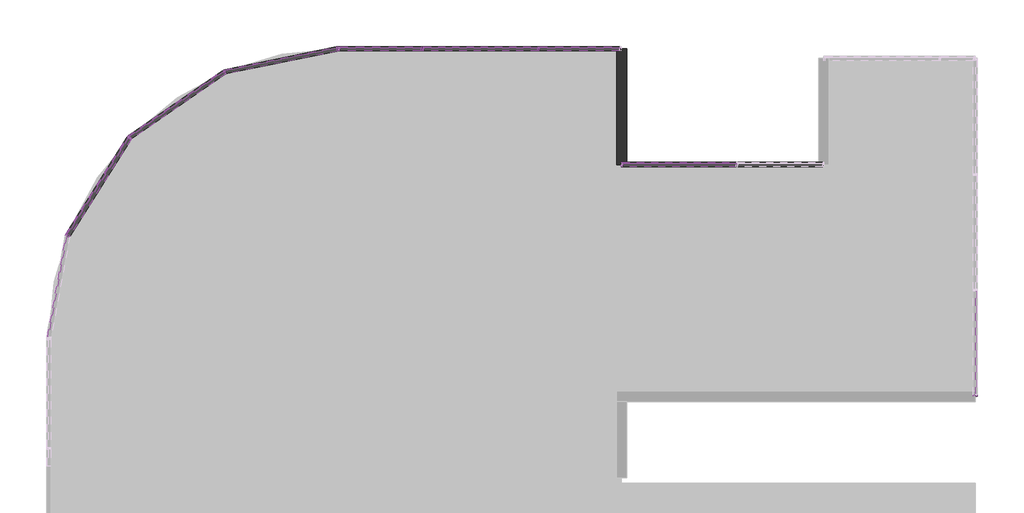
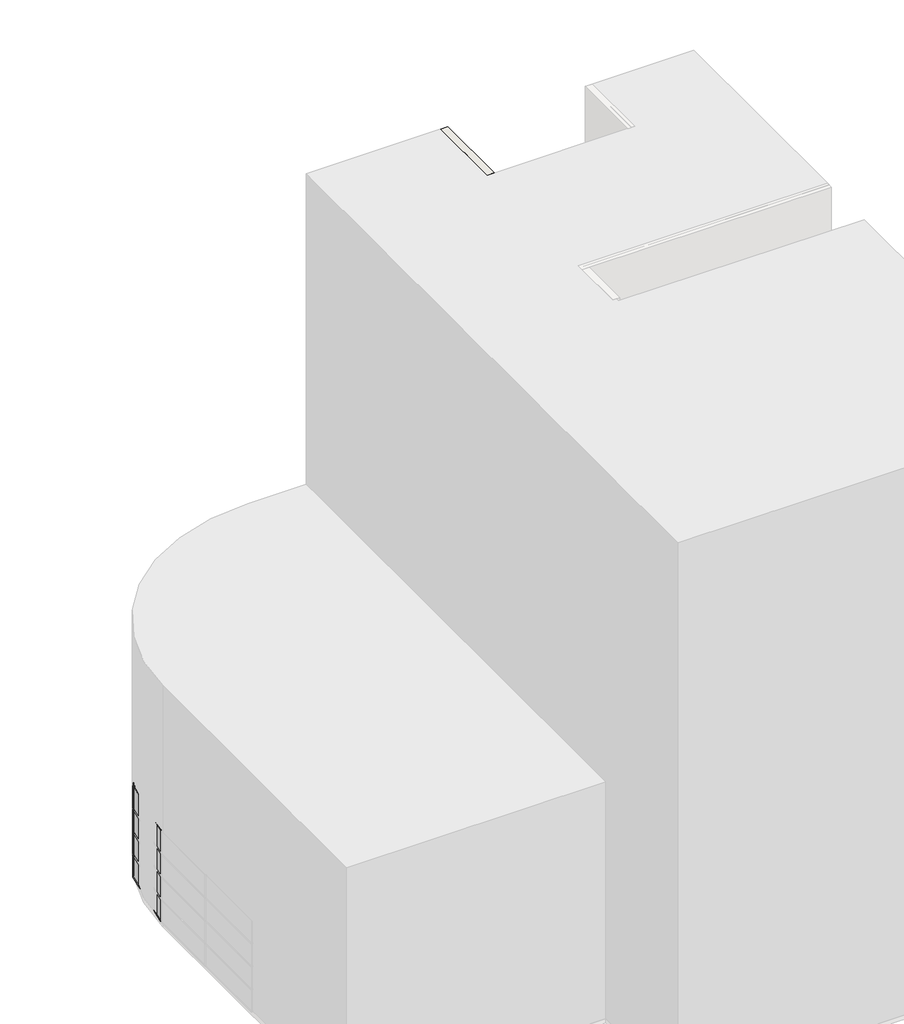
# One storey, part 3 of 4: 68 members, 36 plates, 1 wall.
"""IFC4 building model written with IfcOpenShell, lengths in millimetres."""

from ifc_helpers import new_model, si_unit, origin, origin_with_axes, place, context, project, spatial, polyline, outline, extrude, transform, mapped, element, save
from components import rectangular_mullion_50_x_150mm_d99dc9be, rectangular_mullion_50_x_150mm_402ab136, rectangular_mullion_50_x_150mm_6588f46c, rectangular_mullion_50_x_150mm_c2546fd4, rectangular_mullion_50_x_150mm_55b3505a, rectangular_mullion_50_x_150mm_8b4cb4b7, rectangular_mullion_50_x_150mm_185cfd49, rectangular_mullion_50_x_150mm_0b116d56, rectangular_mullion_50_x_150mm_6d604593, rectangular_mullion_50_x_150mm_99029072, rectangular_mullion_50_x_150mm_662445cf, rectangular_mullion_50_x_150mm_3491e2ff, rectangular_mullion_50_x_150mm_1010543a, rectangular_mullion_50_x_150mm_6b01f5a5, system_panel_glazed_ecbc047f, system_panel_glazed_459c9171, system_panel_glazed_8e9402eb, system_panel_glazed_5566c609, system_panel_glazed_6cd03a5f, system_panel_glazed_e890f31e, system_panel_glazed_ee025bb3, system_panel_glazed_18d93cd4, system_panel_glazed_0282c8a9, system_panel_glazed_e778729e, system_panel_glazed_01970cee, system_panel_glazed_f47374c1, system_panel_glazed_c3dc520e, system_panel_glazed_01c601c5

model = new_model("IFC4")

# Units and contexts
model_context = context("Model", 3, world=origin())
ifc_project = project(units=[si_unit("LENGTHUNIT", "METRE", prefix="MILLI")], contexts=[model_context])

# Site, building, storey
site = spatial("IfcSite", under=ifc_project)
building = spatial("IfcBuilding", under=site)
storey = spatial("IfcBuildingStorey", under=building, Name="Suteren", Elevation=0.0)

# Members
placement = place(None, origin())
rectangular_mullion_50_x_150mm_shape = rectangular_mullion_50_x_150mm_d99dc9be(model_context)
element("IfcMember", 1, ObjectType="Rectangular Mullion : 50 x 150mm", at=placement, inside=storey, context=model_context, shape_type="MappedRepresentation", body=[
    mapped(rectangular_mullion_50_x_150mm_shape, transform((-1587.173406, 8375.9839566, 2400.0), x_axis=(1.0, 0.0, 0.0), y_axis=(0.0, 1.0, 0.0), z_axis=(0.0, 0.0, 1.0))),
])
element("IfcMember", 2, ObjectType="Rectangular Mullion : 50 x 150mm", at=placement, inside=storey, context=model_context, shape_type="MappedRepresentation", body=[
    mapped(rectangular_mullion_50_x_150mm_shape, transform((-1587.173406, 8375.9839566, 3600.0), x_axis=(1.0, 0.0, 0.0), y_axis=(0.0, 1.0, 0.0), z_axis=(0.0, 0.0, 1.0))),
])
element("IfcMember", 3, ObjectType="Rectangular Mullion : 50 x 150mm", at=placement, inside=storey, context=model_context, shape_type="MappedRepresentation", body=[
    mapped(rectangular_mullion_50_x_150mm_shape, transform((-1587.173406, 8375.9839566, 4800.0), x_axis=(1.0, 0.0, 0.0), y_axis=(0.0, 1.0, 0.0), z_axis=(0.0, 0.0, 1.0))),
])
element("IfcMember", 4, ObjectType="Rectangular Mullion : 50 x 150mm", at=placement, inside=storey, context=model_context, shape_type="MappedRepresentation", body=[
    mapped(rectangular_mullion_50_x_150mm_shape, transform((-1587.173406, 8375.9839566, 1200.0), x_axis=(1.0, 0.0, 0.0), y_axis=(0.0, 1.0, 0.0), z_axis=(0.0, 0.0, 1.0))),
])
rectangular_mullion_50_x_150mm_2_shape = rectangular_mullion_50_x_150mm_402ab136(model_context)
element("IfcMember", 5, ObjectType="Rectangular Mullion : 50 x 150mm", at=placement, inside=storey, context=model_context, shape_type="MappedRepresentation", body=[
    mapped(rectangular_mullion_50_x_150mm_2_shape, transform((-1612.173406, 8375.9839566, 0.0), x_axis=(0.0, 0.0, -1.0), y_axis=(0.0, 1.0, 0.0), z_axis=(1.0, 0.0, 0.0))),
])
rectangular_mullion_50_x_150mm_3_shape = rectangular_mullion_50_x_150mm_6588f46c(model_context)
element("IfcMember", 6, ObjectType="Rectangular Mullion : 50 x 150mm", at=placement, inside=storey, context=model_context, shape_type="MappedRepresentation", body=[
    mapped(rectangular_mullion_50_x_150mm_3_shape, transform((13503.2660975, -3624.0160434, 3600.0), x_axis=(0.0, -1.0, 0.0), y_axis=(1.0, 0.0, 0.0), z_axis=(0.0, 0.0, 1.0))),
])
element("IfcMember", 7, ObjectType="Rectangular Mullion : 50 x 150mm", at=placement, inside=storey, context=model_context, shape_type="MappedRepresentation", body=[
    mapped(rectangular_mullion_50_x_150mm_3_shape, transform((13503.2660975, -3624.0160434, 2400.0), x_axis=(0.0, -1.0, 0.0), y_axis=(1.0, 0.0, 0.0), z_axis=(0.0, 0.0, 1.0))),
])
element("IfcMember", 8, ObjectType="Rectangular Mullion : 50 x 150mm", at=placement, inside=storey, context=model_context, shape_type="MappedRepresentation", body=[
    mapped(rectangular_mullion_50_x_150mm_3_shape, transform((-5587.173406, 8375.9839566, 2400.0), x_axis=(1.0, 0.0, 0.0), y_axis=(0.0, 1.0, 0.0), z_axis=(0.0, 0.0, 1.0))),
])
element("IfcMember", 9, ObjectType="Rectangular Mullion : 50 x 150mm", at=placement, inside=storey, context=model_context, shape_type="MappedRepresentation", body=[
    mapped(rectangular_mullion_50_x_150mm_3_shape, transform((-5587.173406, 8375.9839566, 3600.0), x_axis=(1.0, 0.0, 0.0), y_axis=(0.0, 1.0, 0.0), z_axis=(0.0, 0.0, 1.0))),
])
element("IfcMember", 10, ObjectType="Rectangular Mullion : 50 x 150mm", at=placement, inside=storey, context=model_context, shape_type="MappedRepresentation", body=[
    mapped(rectangular_mullion_50_x_150mm_3_shape, transform((-5587.173406, 8375.9839566, 4800.0), x_axis=(1.0, 0.0, 0.0), y_axis=(0.0, 1.0, 0.0), z_axis=(0.0, 0.0, 1.0))),
])
element("IfcMember", 11, ObjectType="Rectangular Mullion : 50 x 150mm", at=placement, inside=storey, context=model_context, shape_type="MappedRepresentation", body=[
    mapped(rectangular_mullion_50_x_150mm_3_shape, transform((-8496.7339025, 8375.9839566, 2400.0), x_axis=(0.9797958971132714, 0.1999999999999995, 0.0), y_axis=(-0.1999999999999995, 0.9797958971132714, 0.0), z_axis=(0.0, 0.0, 1.0))),
])
element("IfcMember", 12, ObjectType="Rectangular Mullion : 50 x 150mm", at=placement, inside=storey, context=model_context, shape_type="MappedRepresentation", body=[
    mapped(rectangular_mullion_50_x_150mm_3_shape, transform((-8496.7339025, 8375.9839566, 3600.0), x_axis=(0.9797958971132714, 0.1999999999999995, 0.0), y_axis=(-0.1999999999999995, 0.9797958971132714, 0.0), z_axis=(0.0, 0.0, 1.0))),
])
element("IfcMember", 13, ObjectType="Rectangular Mullion : 50 x 150mm", at=placement, inside=storey, context=model_context, shape_type="MappedRepresentation", body=[
    mapped(rectangular_mullion_50_x_150mm_3_shape, transform((-8496.7339025, 8375.9839566, 4800.0), x_axis=(0.9797958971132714, 0.1999999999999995, 0.0), y_axis=(-0.1999999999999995, 0.9797958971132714, 0.0), z_axis=(0.0, 0.0, 1.0))),
])
element("IfcMember", 14, ObjectType="Rectangular Mullion : 50 x 150mm", at=placement, inside=storey, context=model_context, shape_type="MappedRepresentation", body=[
    mapped(rectangular_mullion_50_x_150mm_3_shape, transform((13503.2660975, -3624.0160434, 1200.0), x_axis=(0.0, -1.0, 0.0), y_axis=(1.0, 0.0, 0.0), z_axis=(0.0, 0.0, 1.0))),
])
element("IfcMember", 15, ObjectType="Rectangular Mullion : 50 x 150mm", at=placement, inside=storey, context=model_context, shape_type="MappedRepresentation", body=[
    mapped(rectangular_mullion_50_x_150mm_3_shape, transform((-5587.173406, 8375.9839566, 1200.0), x_axis=(1.0, 0.0, 0.0), y_axis=(0.0, 1.0, 0.0), z_axis=(0.0, 0.0, 1.0))),
])
element("IfcMember", 16, ObjectType="Rectangular Mullion : 50 x 150mm", at=placement, inside=storey, context=model_context, shape_type="MappedRepresentation", body=[
    mapped(rectangular_mullion_50_x_150mm_3_shape, transform((-8496.7339025, 8375.9839566, 1200.0), x_axis=(0.9797958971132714, 0.1999999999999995, 0.0), y_axis=(-0.1999999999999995, 0.9797958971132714, 0.0), z_axis=(0.0, 0.0, 1.0))),
])
rectangular_mullion_50_x_150mm_4_shape = rectangular_mullion_50_x_150mm_c2546fd4(model_context)
element("IfcMember", 17, ObjectType="Rectangular Mullion : 50 x 150mm", at=placement, inside=storey, context=model_context, shape_type="MappedRepresentation", body=[
    mapped(rectangular_mullion_50_x_150mm_4_shape, transform((-5537.173406, 8375.9839566, 1200.0), x_axis=(0.0, 0.0, 1.0), y_axis=(0.0, 1.0, 0.0), z_axis=(-1.0, 0.0, 0.0))),
])
element("IfcMember", 18, ObjectType="Rectangular Mullion : 50 x 150mm", at=placement, inside=storey, context=model_context, shape_type="MappedRepresentation", body=[
    mapped(rectangular_mullion_50_x_150mm_4_shape, transform((-5537.173406, 8375.9839566, 2400.0), x_axis=(0.0, 0.0, 1.0), y_axis=(0.0, 1.0, 0.0), z_axis=(-1.0, 0.0, 0.0))),
])
element("IfcMember", 19, ObjectType="Rectangular Mullion : 50 x 150mm", at=placement, inside=storey, context=model_context, shape_type="MappedRepresentation", body=[
    mapped(rectangular_mullion_50_x_150mm_4_shape, transform((-5537.173406, 8375.9839566, 3600.0), x_axis=(0.0, 0.0, 1.0), y_axis=(0.0, 1.0, 0.0), z_axis=(-1.0, 0.0, 0.0))),
])
element("IfcMember", 20, ObjectType="Rectangular Mullion : 50 x 150mm", at=placement, inside=storey, context=model_context, shape_type="MappedRepresentation", body=[
    mapped(rectangular_mullion_50_x_150mm_4_shape, transform((1328.419219, 4375.9839566, 1200.0), x_axis=(0.0, 0.0, 1.0), y_axis=(0.0, 1.0, 0.0), z_axis=(-1.0, 0.0, 0.0))),
])
element("IfcMember", 21, ObjectType="Rectangular Mullion : 50 x 150mm", at=placement, inside=storey, context=model_context, shape_type="MappedRepresentation", body=[
    mapped(rectangular_mullion_50_x_150mm_4_shape, transform((1328.419219, 4375.9839566, 2400.0), x_axis=(0.0, 0.0, 1.0), y_axis=(0.0, 1.0, 0.0), z_axis=(-1.0, 0.0, 0.0))),
])
element("IfcMember", 22, ObjectType="Rectangular Mullion : 50 x 150mm", at=placement, inside=storey, context=model_context, shape_type="MappedRepresentation", body=[
    mapped(rectangular_mullion_50_x_150mm_4_shape, transform((1328.419219, 4375.9839566, 3600.0), x_axis=(0.0, 0.0, 1.0), y_axis=(0.0, 1.0, 0.0), z_axis=(-1.0, 0.0, 0.0))),
])
rectangular_mullion_50_x_150mm_5_shape = rectangular_mullion_50_x_150mm_55b3505a(model_context)
element("IfcMember", 23, ObjectType="Rectangular Mullion : 50 x 150mm", at=placement, inside=storey, context=model_context, shape_type="MappedRepresentation", body=[
    mapped(rectangular_mullion_50_x_150mm_5_shape, transform((13503.2660975, -3574.0160434, 0.0), x_axis=(0.0, 0.0, -1.0), y_axis=(1.0, 0.0, 0.0), z_axis=(0.0, -1.0, 0.0))),
])
element("IfcMember", 24, ObjectType="Rectangular Mullion : 50 x 150mm", at=placement, inside=storey, context=model_context, shape_type="MappedRepresentation", body=[
    mapped(rectangular_mullion_50_x_150mm_3_shape, transform((-5587.173406, 8375.9839566, 1200.0), x_axis=(-1.0, 0.0, 0.0), y_axis=(0.0, 1.0, 0.0), z_axis=(0.0, 0.0, -1.0))),
])
element("IfcMember", 25, ObjectType="Rectangular Mullion : 50 x 150mm", at=placement, inside=storey, context=model_context, shape_type="MappedRepresentation", body=[
    mapped(rectangular_mullion_50_x_150mm_3_shape, transform((-5587.173406, 8375.9839566, 2400.0), x_axis=(-1.0, 0.0, 0.0), y_axis=(0.0, 1.0, 0.0), z_axis=(0.0, 0.0, -1.0))),
])
element("IfcMember", 26, ObjectType="Rectangular Mullion : 50 x 150mm", at=placement, inside=storey, context=model_context, shape_type="MappedRepresentation", body=[
    mapped(rectangular_mullion_50_x_150mm_3_shape, transform((-5587.173406, 8375.9839566, 3600.0), x_axis=(-1.0, 0.0, 0.0), y_axis=(0.0, 1.0, 0.0), z_axis=(0.0, 0.0, -1.0))),
])
element("IfcMember", 27, ObjectType="Rectangular Mullion : 50 x 150mm", at=placement, inside=storey, context=model_context, shape_type="MappedRepresentation", body=[
    mapped(rectangular_mullion_50_x_150mm_3_shape, transform((1278.419219, 4375.9839566, 1200.0), x_axis=(-1.0, 0.0, 0.0), y_axis=(0.0, 1.0, 0.0), z_axis=(0.0, 0.0, -1.0))),
])
element("IfcMember", 28, ObjectType="Rectangular Mullion : 50 x 150mm", at=placement, inside=storey, context=model_context, shape_type="MappedRepresentation", body=[
    mapped(rectangular_mullion_50_x_150mm_3_shape, transform((1278.419219, 4375.9839566, 2400.0), x_axis=(-1.0, 0.0, 0.0), y_axis=(0.0, 1.0, 0.0), z_axis=(0.0, 0.0, -1.0))),
])
element("IfcMember", 29, ObjectType="Rectangular Mullion : 50 x 150mm", at=placement, inside=storey, context=model_context, shape_type="MappedRepresentation", body=[
    mapped(rectangular_mullion_50_x_150mm_3_shape, transform((1278.419219, 4375.9839566, 3600.0), x_axis=(-1.0, 0.0, 0.0), y_axis=(0.0, 1.0, 0.0), z_axis=(0.0, 0.0, -1.0))),
])
element("IfcMember", 30, ObjectType="Rectangular Mullion : 50 x 150mm", at=placement, inside=storey, context=model_context, shape_type="MappedRepresentation", body=[
    mapped(rectangular_mullion_50_x_150mm_3_shape, transform((-8496.7339025, 8375.9839566, 1200.0), x_axis=(-1.0, 0.0, 0.0), y_axis=(0.0, 1.0, 0.0), z_axis=(0.0, 0.0, -1.0))),
])
element("IfcMember", 31, ObjectType="Rectangular Mullion : 50 x 150mm", at=placement, inside=storey, context=model_context, shape_type="MappedRepresentation", body=[
    mapped(rectangular_mullion_50_x_150mm_3_shape, transform((-8496.7339025, 8375.9839566, 2400.0), x_axis=(-1.0, 0.0, 0.0), y_axis=(0.0, 1.0, 0.0), z_axis=(0.0, 0.0, -1.0))),
])
element("IfcMember", 32, ObjectType="Rectangular Mullion : 50 x 150mm", at=placement, inside=storey, context=model_context, shape_type="MappedRepresentation", body=[
    mapped(rectangular_mullion_50_x_150mm_3_shape, transform((-8496.7339025, 8375.9839566, 3600.0), x_axis=(-1.0, 0.0, 0.0), y_axis=(0.0, 1.0, 0.0), z_axis=(0.0, 0.0, -1.0))),
])
element("IfcMember", 33, ObjectType="Rectangular Mullion : 50 x 150mm", at=placement, inside=storey, context=model_context, shape_type="MappedRepresentation", body=[
    mapped(rectangular_mullion_50_x_150mm_3_shape, transform((-5587.173406, 8375.9839566, 0.0), x_axis=(-1.0, 0.0, 0.0), y_axis=(0.0, 1.0, 0.0), z_axis=(0.0, 0.0, -1.0))),
])
element("IfcMember", 34, ObjectType="Rectangular Mullion : 50 x 150mm", at=placement, inside=storey, context=model_context, shape_type="MappedRepresentation", body=[
    mapped(rectangular_mullion_50_x_150mm_3_shape, transform((1278.419219, 4375.9839566, 0.0), x_axis=(-1.0, 0.0, 0.0), y_axis=(0.0, 1.0, 0.0), z_axis=(0.0, 0.0, -1.0))),
])
element("IfcMember", 35, ObjectType="Rectangular Mullion : 50 x 150mm", at=placement, inside=storey, context=model_context, shape_type="MappedRepresentation", body=[
    mapped(rectangular_mullion_50_x_150mm_3_shape, transform((-8496.7339025, 8375.9839566, 0.0), x_axis=(-1.0, 0.0, 0.0), y_axis=(0.0, 1.0, 0.0), z_axis=(0.0, 0.0, -1.0))),
])
rectangular_mullion_50_x_150mm_6_shape = rectangular_mullion_50_x_150mm_8b4cb4b7(model_context)
element("IfcMember", 36, ObjectType="Rectangular Mullion : 50 x 150mm", at=placement, inside=storey, context=model_context, shape_type="MappedRepresentation", body=[
    mapped(rectangular_mullion_50_x_150mm_6_shape, transform((-1562.173406, 8375.9839566, 1200.0), x_axis=(0.0, 0.0, 1.0), y_axis=(0.0, 1.0, 0.0), z_axis=(-1.0, 0.0, 0.0))),
])
element("IfcMember", 37, ObjectType="Rectangular Mullion : 50 x 150mm", at=placement, inside=storey, context=model_context, shape_type="MappedRepresentation", body=[
    mapped(rectangular_mullion_50_x_150mm_6_shape, transform((-1562.173406, 8375.9839566, 2400.0), x_axis=(0.0, 0.0, 1.0), y_axis=(0.0, 1.0, 0.0), z_axis=(-1.0, 0.0, 0.0))),
])
element("IfcMember", 38, ObjectType="Rectangular Mullion : 50 x 150mm", at=placement, inside=storey, context=model_context, shape_type="MappedRepresentation", body=[
    mapped(rectangular_mullion_50_x_150mm_6_shape, transform((-1562.173406, 8375.9839566, 3600.0), x_axis=(0.0, 0.0, 1.0), y_axis=(0.0, 1.0, 0.0), z_axis=(-1.0, 0.0, 0.0))),
])
rectangular_mullion_50_x_150mm_7_shape = rectangular_mullion_50_x_150mm_185cfd49(model_context)
element("IfcMember", 39, ObjectType="Rectangular Mullion : 50 x 150mm", at=placement, inside=storey, context=model_context, shape_type="MappedRepresentation", body=[
    mapped(rectangular_mullion_50_x_150mm_7_shape, transform((5303.419219, 4375.9839566, 1200.0), x_axis=(0.0, 0.0, 1.0), y_axis=(0.0, 1.0, 0.0), z_axis=(-1.0, 0.0, 0.0))),
])
rectangular_mullion_50_x_150mm_8_shape = rectangular_mullion_50_x_150mm_0b116d56(model_context)
element("IfcMember", 40, ObjectType="Rectangular Mullion : 50 x 150mm", at=placement, inside=storey, context=model_context, shape_type="MappedRepresentation", body=[
    mapped(rectangular_mullion_50_x_150mm_8_shape, transform((-5637.173406, 8375.9839566, 0.0), x_axis=(0.0, 0.0, -1.0), y_axis=(0.0, 1.0, 0.0), z_axis=(1.0, 0.0, 0.0))),
])
rectangular_mullion_50_x_150mm_9_shape = rectangular_mullion_50_x_150mm_6d604593(model_context)
element("IfcMember", 41, ObjectType="Rectangular Mullion : 50 x 150mm", at=placement, inside=storey, context=model_context, shape_type="MappedRepresentation", body=[
    mapped(rectangular_mullion_50_x_150mm_9_shape, transform((-8446.7339025, 8375.9839566, 1200.0), x_axis=(0.0, 0.0, 1.0), y_axis=(0.0, 1.0, 0.0), z_axis=(-1.0, 0.0, 0.0))),
])
element("IfcMember", 42, ObjectType="Rectangular Mullion : 50 x 150mm", at=placement, inside=storey, context=model_context, shape_type="MappedRepresentation", body=[
    mapped(rectangular_mullion_50_x_150mm_9_shape, transform((-8446.7339025, 8375.9839566, 2400.0), x_axis=(0.0, 0.0, 1.0), y_axis=(0.0, 1.0, 0.0), z_axis=(-1.0, 0.0, 0.0))),
])
element("IfcMember", 43, ObjectType="Rectangular Mullion : 50 x 150mm", at=placement, inside=storey, context=model_context, shape_type="MappedRepresentation", body=[
    mapped(rectangular_mullion_50_x_150mm_9_shape, transform((-8446.7339025, 8375.9839566, 3600.0), x_axis=(0.0, 0.0, 1.0), y_axis=(0.0, 1.0, 0.0), z_axis=(-1.0, 0.0, 0.0))),
])
rectangular_mullion_50_x_150mm_10_shape = rectangular_mullion_50_x_150mm_99029072(model_context)
element("IfcMember", 44, ObjectType="Rectangular Mullion : 50 x 150mm", at=placement, inside=storey, context=model_context, shape_type="MappedRepresentation", body=[
    mapped(rectangular_mullion_50_x_150mm_10_shape, transform((-15687.4559914, 5318.1839566, 1200.0), x_axis=(0.0, 0.0, 1.0), y_axis=(-0.5680000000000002, 0.8230285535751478, 0.0), z_axis=(-0.8230285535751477, -0.5680000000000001, 0.0))),
])
element("IfcMember", 45, ObjectType="Rectangular Mullion : 50 x 150mm", at=placement, inside=storey, context=model_context, shape_type="MappedRepresentation", body=[
    mapped(rectangular_mullion_50_x_150mm_10_shape, transform((-17832.9738551, 1944.6319566, 1200.0), x_axis=(0.0, 0.0, 1.0), y_axis=(-0.84512, 0.534576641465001, 0.0), z_axis=(-0.534576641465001, -0.84512, 0.0))),
])
element("IfcMember", 46, ObjectType="Rectangular Mullion : 50 x 150mm", at=placement, inside=storey, context=model_context, shape_type="MappedRepresentation", body=[
    mapped(rectangular_mullion_50_x_150mm_10_shape, transform((-15687.4559914, 5318.1839566, 2400.0), x_axis=(0.0, 0.0, 1.0), y_axis=(-0.5680000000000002, 0.8230285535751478, 0.0), z_axis=(-0.8230285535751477, -0.5680000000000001, 0.0))),
])
element("IfcMember", 47, ObjectType="Rectangular Mullion : 50 x 150mm", at=placement, inside=storey, context=model_context, shape_type="MappedRepresentation", body=[
    mapped(rectangular_mullion_50_x_150mm_10_shape, transform((-17832.9738551, 1944.6319566, 2400.0), x_axis=(0.0, 0.0, 1.0), y_axis=(-0.84512, 0.534576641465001, 0.0), z_axis=(-0.534576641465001, -0.84512, 0.0))),
])
element("IfcMember", 48, ObjectType="Rectangular Mullion : 50 x 150mm", at=placement, inside=storey, context=model_context, shape_type="MappedRepresentation", body=[
    mapped(rectangular_mullion_50_x_150mm_10_shape, transform((-15687.4559914, 5318.1839566, 3600.0), x_axis=(0.0, 0.0, 1.0), y_axis=(-0.5680000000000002, 0.8230285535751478, 0.0), z_axis=(-0.8230285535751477, -0.5680000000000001, 0.0))),
])
element("IfcMember", 49, ObjectType="Rectangular Mullion : 50 x 150mm", at=placement, inside=storey, context=model_context, shape_type="MappedRepresentation", body=[
    mapped(rectangular_mullion_50_x_150mm_10_shape, transform((-17832.9738551, 1944.6319566, 3600.0), x_axis=(0.0, 0.0, 1.0), y_axis=(-0.84512, 0.534576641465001, 0.0), z_axis=(-0.534576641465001, -0.84512, 0.0))),
])
rectangular_mullion_50_x_150mm_11_shape = rectangular_mullion_50_x_150mm_662445cf(model_context)
element("IfcMember", 50, ObjectType="Rectangular Mullion : 50 x 150mm", at=placement, inside=storey, context=model_context, shape_type="MappedRepresentation", body=[
    mapped(rectangular_mullion_50_x_150mm_11_shape, transform((-12391.4225935, 7580.9839566, 2400.0), x_axis=(0.0, 0.0, 1.0), y_axis=(-0.19999999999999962, 0.9797958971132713, 0.0), z_axis=(-0.9797958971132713, -0.19999999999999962, 0.0))),
])
element("IfcMember", 51, ObjectType="Rectangular Mullion : 50 x 150mm", at=placement, inside=storey, context=model_context, shape_type="MappedRepresentation", body=[
    mapped(rectangular_mullion_50_x_150mm_11_shape, transform((-12391.4225935, 7580.9839566, 3600.0), x_axis=(0.0, 0.0, 1.0), y_axis=(-0.19999999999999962, 0.9797958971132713, 0.0), z_axis=(-0.9797958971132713, -0.19999999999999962, 0.0))),
])
element("IfcMember", 52, ObjectType="Rectangular Mullion : 50 x 150mm", at=placement, inside=storey, context=model_context, shape_type="MappedRepresentation", body=[
    mapped(rectangular_mullion_50_x_150mm_11_shape, transform((-12391.4225935, 7580.9839566, 1200.0), x_axis=(0.0, 0.0, 1.0), y_axis=(-0.19999999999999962, 0.9797958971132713, 0.0), z_axis=(-0.9797958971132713, -0.19999999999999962, 0.0))),
])
rectangular_mullion_50_x_150mm_12_shape = rectangular_mullion_50_x_150mm_3491e2ff(model_context)
element("IfcMember", 53, ObjectType="Rectangular Mullion : 50 x 150mm", at=placement, inside=storey, context=model_context, shape_type="MappedRepresentation", body=[
    mapped(rectangular_mullion_50_x_150mm_12_shape, transform((-12436.4932048, 7561.7839566, 0.0), x_axis=(0.0, 0.0, -1.0), y_axis=(-0.5680000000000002, 0.8230285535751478, 0.0), z_axis=(0.8230285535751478, 0.5680000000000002, 0.0))),
])
element("IfcMember", 54, ObjectType="Rectangular Mullion : 50 x 150mm", at=placement, inside=storey, context=model_context, shape_type="MappedRepresentation", body=[
    mapped(rectangular_mullion_50_x_150mm_12_shape, transform((-15721.3961213, 5282.8559566, 0.0), x_axis=(0.0, 0.0, -1.0), y_axis=(-0.8451199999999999, 0.5345766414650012, 0.0), z_axis=(0.5345766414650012, 0.8451199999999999, 0.0))),
])
rectangular_mullion_50_x_150mm_13_shape = rectangular_mullion_50_x_150mm_1010543a(model_context)
element("IfcMember", 55, ObjectType="Rectangular Mullion : 50 x 150mm", at=placement, inside=storey, context=model_context, shape_type="MappedRepresentation", body=[
    mapped(rectangular_mullion_50_x_150mm_13_shape, transform((-17850.8465816, 1898.9138135, 0.0), x_axis=(0.0, 0.0, -1.0), y_axis=(-0.9836057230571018, 0.18033241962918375, 0.0), z_axis=(0.18033241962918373, 0.9836057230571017, 0.0))),
])
element("IfcMember", 56, ObjectType="Rectangular Mullion : 50 x 150mm", at=placement, inside=storey, context=model_context, shape_type="MappedRepresentation", body=[
    mapped(rectangular_mullion_50_x_150mm_shape, transform((-12415.9174909, 7575.9839566, 1200.0), x_axis=(-0.92, -0.3919183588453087, 0.0), y_axis=(-0.3919183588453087, 0.92, 0.0), z_axis=(0.0, 0.0, -1.0))),
])
element("IfcMember", 57, ObjectType="Rectangular Mullion : 50 x 150mm", at=placement, inside=storey, context=model_context, shape_type="MappedRepresentation", body=[
    mapped(rectangular_mullion_50_x_150mm_shape, transform((-12415.9174909, 7575.9839566, 2400.0), x_axis=(-0.92, -0.3919183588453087, 0.0), y_axis=(-0.3919183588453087, 0.92, 0.0), z_axis=(0.0, 0.0, -1.0))),
])
element("IfcMember", 58, ObjectType="Rectangular Mullion : 50 x 150mm", at=placement, inside=storey, context=model_context, shape_type="MappedRepresentation", body=[
    mapped(rectangular_mullion_50_x_150mm_shape, transform((-12415.9174909, 7575.9839566, 3600.0), x_axis=(-0.92, -0.3919183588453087, 0.0), y_axis=(-0.3919183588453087, 0.92, 0.0), z_axis=(0.0, 0.0, -1.0))),
])
element("IfcMember", 59, ObjectType="Rectangular Mullion : 50 x 150mm", at=placement, inside=storey, context=model_context, shape_type="MappedRepresentation", body=[
    mapped(rectangular_mullion_50_x_150mm_shape, transform((-15708.0317052, 5303.9839566, 1200.0), x_axis=(-0.6928000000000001, -0.7211297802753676, 0.0), y_axis=(-0.7211297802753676, 0.6928000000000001, 0.0), z_axis=(0.0, 0.0, -1.0))),
])
element("IfcMember", 60, ObjectType="Rectangular Mullion : 50 x 150mm", at=placement, inside=storey, context=model_context, shape_type="MappedRepresentation", body=[
    mapped(rectangular_mullion_50_x_150mm_shape, transform((-15708.0317052, 5303.9839566, 2400.0), x_axis=(-0.6928000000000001, -0.7211297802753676, 0.0), y_axis=(-0.7211297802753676, 0.6928000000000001, 0.0), z_axis=(0.0, 0.0, -1.0))),
])
element("IfcMember", 61, ObjectType="Rectangular Mullion : 50 x 150mm", at=placement, inside=storey, context=model_context, shape_type="MappedRepresentation", body=[
    mapped(rectangular_mullion_50_x_150mm_shape, transform((-15708.0317052, 5303.9839566, 3600.0), x_axis=(-0.6928000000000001, -0.7211297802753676, 0.0), y_axis=(-0.7211297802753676, 0.6928000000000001, 0.0), z_axis=(0.0, 0.0, -1.0))),
])
element("IfcMember", 62, ObjectType="Rectangular Mullion : 50 x 150mm", at=placement, inside=storey, context=model_context, shape_type="MappedRepresentation", body=[
    mapped(rectangular_mullion_50_x_150mm_shape, transform((-17846.3382711, 1923.5039566, 1200.0), x_axis=(-0.35475199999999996, -0.934960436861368, 0.0), y_axis=(-0.934960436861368, 0.35475199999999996, 0.0), z_axis=(0.0, 0.0, -1.0))),
])
element("IfcMember", 63, ObjectType="Rectangular Mullion : 50 x 150mm", at=placement, inside=storey, context=model_context, shape_type="MappedRepresentation", body=[
    mapped(rectangular_mullion_50_x_150mm_shape, transform((-17846.3382711, 1923.5039566, 2400.0), x_axis=(-0.35475199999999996, -0.934960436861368, 0.0), y_axis=(-0.934960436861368, 0.35475199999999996, 0.0), z_axis=(0.0, 0.0, -1.0))),
])
element("IfcMember", 64, ObjectType="Rectangular Mullion : 50 x 150mm", at=placement, inside=storey, context=model_context, shape_type="MappedRepresentation", body=[
    mapped(rectangular_mullion_50_x_150mm_shape, transform((-17846.3382711, 1923.5039566, 3600.0), x_axis=(-0.35475199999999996, -0.934960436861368, 0.0), y_axis=(-0.934960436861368, 0.35475199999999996, 0.0), z_axis=(0.0, 0.0, -1.0))),
])
rectangular_mullion_50_x_150mm_14_shape = rectangular_mullion_50_x_150mm_6b01f5a5(model_context)
element("IfcMember", 65, ObjectType="Rectangular Mullion : 50 x 150mm", at=placement, inside=storey, context=model_context, shape_type="MappedRepresentation", body=[
    mapped(rectangular_mullion_50_x_150mm_14_shape, transform((-8545.7236973, 8365.9839566, 0.0), x_axis=(0.0, 0.0, -1.0), y_axis=(-0.19999999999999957, 0.9797958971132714, 0.0), z_axis=(0.9797958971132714, 0.19999999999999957, 0.0))),
])
element("IfcMember", 66, ObjectType="Rectangular Mullion : 50 x 150mm", at=placement, inside=storey, context=model_context, shape_type="MappedRepresentation", body=[
    mapped(rectangular_mullion_50_x_150mm_shape, transform((-12415.9174909, 7575.9839566, 0.0), x_axis=(-0.92, -0.3919183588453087, 0.0), y_axis=(-0.3919183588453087, 0.92, 0.0), z_axis=(0.0, 0.0, -1.0))),
])
element("IfcMember", 67, ObjectType="Rectangular Mullion : 50 x 150mm", at=placement, inside=storey, context=model_context, shape_type="MappedRepresentation", body=[
    mapped(rectangular_mullion_50_x_150mm_shape, transform((-15708.0317052, 5303.9839566, 0.0), x_axis=(-0.6928000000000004, -0.7211297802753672, 0.0), y_axis=(-0.7211297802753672, 0.6928000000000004, 0.0), z_axis=(0.0, 0.0, -1.0))),
])
element("IfcMember", 68, ObjectType="Rectangular Mullion : 50 x 150mm", at=placement, inside=storey, context=model_context, shape_type="MappedRepresentation", body=[
    mapped(rectangular_mullion_50_x_150mm_shape, transform((-17846.3382711, 1923.5039566, 0.0), x_axis=(-0.35475199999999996, -0.934960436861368, 0.0), y_axis=(-0.934960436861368, 0.35475199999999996, 0.0), z_axis=(0.0, 0.0, -1.0))),
])

# Plates
system_panel_glazed_shape = system_panel_glazed_ecbc047f(model_context)
element("IfcPlate", 69, ObjectType="System Panel : Glazed", at=placement, inside=storey, context=model_context, shape_type="MappedRepresentation", body=[
    mapped(system_panel_glazed_shape, transform((3290.919219, 4375.9839566, 50.0), x_axis=(1.0, 0.0, 0.0), y_axis=(0.0, 1.0, 0.0), z_axis=(0.0, 0.0, 1.0))),
])
element("IfcPlate", 70, ObjectType="System Panel : Glazed", at=placement, inside=storey, context=model_context, shape_type="MappedRepresentation", body=[
    mapped(system_panel_glazed_shape, transform((-3574.673406, 8375.9839566, 50.0), x_axis=(1.0, 0.0, 0.0), y_axis=(0.0, 1.0, 0.0), z_axis=(0.0, 0.0, 1.0))),
])
system_panel_glazed_2_shape = system_panel_glazed_459c9171(model_context)
element("IfcPlate", 71, ObjectType="System Panel : Glazed", at=placement, inside=storey, context=model_context, shape_type="MappedRepresentation", body=[
    mapped(system_panel_glazed_2_shape, transform((13503.2660975, -1779.830251, 50.0), x_axis=(0.0, -1.0, 0.0), y_axis=(1.0, 0.0, 0.0), z_axis=(0.0, 0.0, 1.0))),
])
system_panel_glazed_3_shape = system_panel_glazed_8e9402eb(model_context)
element("IfcPlate", 72, ObjectType="System Panel : Glazed", at=placement, inside=storey, context=model_context, shape_type="MappedRepresentation", body=[
    mapped(system_panel_glazed_3_shape, transform((3290.919219, 4375.9839566, 1225.0), x_axis=(1.0, 0.0, 0.0), y_axis=(0.0, 1.0, 0.0), z_axis=(0.0, 0.0, 1.0))),
])
element("IfcPlate", 73, ObjectType="System Panel : Glazed", at=placement, inside=storey, context=model_context, shape_type="MappedRepresentation", body=[
    mapped(system_panel_glazed_3_shape, transform((3290.919219, 4375.9839566, 2425.0), x_axis=(1.0, 0.0, 0.0), y_axis=(0.0, 1.0, 0.0), z_axis=(0.0, 0.0, 1.0))),
])
element("IfcPlate", 74, ObjectType="System Panel : Glazed", at=placement, inside=storey, context=model_context, shape_type="MappedRepresentation", body=[
    mapped(system_panel_glazed_3_shape, transform((3290.919219, 4375.9839566, 3625.0), x_axis=(1.0, 0.0, 0.0), y_axis=(0.0, 1.0, 0.0), z_axis=(0.0, 0.0, 1.0))),
])
element("IfcPlate", 75, ObjectType="System Panel : Glazed", at=placement, inside=storey, context=model_context, shape_type="MappedRepresentation", body=[
    mapped(system_panel_glazed_3_shape, transform((-3574.673406, 8375.9839566, 1225.0), x_axis=(1.0, 0.0, 0.0), y_axis=(0.0, 1.0, 0.0), z_axis=(0.0, 0.0, 1.0))),
])
element("IfcPlate", 76, ObjectType="System Panel : Glazed", at=placement, inside=storey, context=model_context, shape_type="MappedRepresentation", body=[
    mapped(system_panel_glazed_3_shape, transform((-3574.673406, 8375.9839566, 2425.0), x_axis=(1.0, 0.0, 0.0), y_axis=(0.0, 1.0, 0.0), z_axis=(0.0, 0.0, 1.0))),
])
element("IfcPlate", 77, ObjectType="System Panel : Glazed", at=placement, inside=storey, context=model_context, shape_type="MappedRepresentation", body=[
    mapped(system_panel_glazed_3_shape, transform((-3574.673406, 8375.9839566, 3625.0), x_axis=(1.0, 0.0, 0.0), y_axis=(0.0, 1.0, 0.0), z_axis=(0.0, 0.0, 1.0))),
])
system_panel_glazed_4_shape = system_panel_glazed_5566c609(model_context)
element("IfcPlate", 78, ObjectType="System Panel : Glazed", at=placement, inside=storey, context=model_context, shape_type="MappedRepresentation", body=[
    mapped(system_panel_glazed_4_shape, transform((13503.2660975, -1779.830251, 1225.0), x_axis=(0.0, -1.0, 0.0), y_axis=(1.0, 0.0, 0.0), z_axis=(0.0, 0.0, 1.0))),
])
element("IfcPlate", 79, ObjectType="System Panel : Glazed", at=placement, inside=storey, context=model_context, shape_type="MappedRepresentation", body=[
    mapped(system_panel_glazed_4_shape, transform((13503.2660975, -1779.830251, 2425.0), x_axis=(0.0, -1.0, 0.0), y_axis=(1.0, 0.0, 0.0), z_axis=(0.0, 0.0, 1.0))),
])
element("IfcPlate", 80, ObjectType="System Panel : Glazed", at=placement, inside=storey, context=model_context, shape_type="MappedRepresentation", body=[
    mapped(system_panel_glazed_4_shape, transform((13503.2660975, -1779.830251, 3625.0), x_axis=(0.0, -1.0, 0.0), y_axis=(1.0, 0.0, 0.0), z_axis=(0.0, 0.0, 1.0))),
])
system_panel_glazed_5_shape = system_panel_glazed_6cd03a5f(model_context)
element("IfcPlate", 81, ObjectType="System Panel : Glazed", at=placement, inside=storey, context=model_context, shape_type="MappedRepresentation", body=[
    mapped(system_panel_glazed_5_shape, transform((-166.8770935, 8375.9839566, 50.0), x_axis=(1.0, 0.0, 0.0), y_axis=(0.0, 1.0, 0.0), z_axis=(0.0, 0.0, 1.0))),
])
system_panel_glazed_6_shape = system_panel_glazed_e890f31e(model_context)
element("IfcPlate", 82, ObjectType="System Panel : Glazed", at=placement, inside=storey, context=model_context, shape_type="MappedRepresentation", body=[
    mapped(system_panel_glazed_6_shape, transform((-166.8770935, 8375.9839566, 1225.0), x_axis=(1.0, 0.0, 0.0), y_axis=(0.0, 1.0, 0.0), z_axis=(0.0, 0.0, 1.0))),
])
element("IfcPlate", 83, ObjectType="System Panel : Glazed", at=placement, inside=storey, context=model_context, shape_type="MappedRepresentation", body=[
    mapped(system_panel_glazed_6_shape, transform((-166.8770935, 8375.9839566, 2425.0), x_axis=(1.0, 0.0, 0.0), y_axis=(0.0, 1.0, 0.0), z_axis=(0.0, 0.0, 1.0))),
])
element("IfcPlate", 84, ObjectType="System Panel : Glazed", at=placement, inside=storey, context=model_context, shape_type="MappedRepresentation", body=[
    mapped(system_panel_glazed_6_shape, transform((-166.8770935, 8375.9839566, 3625.0), x_axis=(1.0, 0.0, 0.0), y_axis=(0.0, 1.0, 0.0), z_axis=(0.0, 0.0, 1.0))),
])
system_panel_glazed_7_shape = system_panel_glazed_ee025bb3(model_context)
element("IfcPlate", 85, ObjectType="System Panel : Glazed", at=placement, inside=storey, context=model_context, shape_type="MappedRepresentation", body=[
    mapped(system_panel_glazed_7_shape, transform((-7041.9536543, 8375.9839566, 50.0), x_axis=(1.0, 0.0, 0.0), y_axis=(0.0, 1.0, 0.0), z_axis=(0.0, 0.0, 1.0))),
])
system_panel_glazed_8_shape = system_panel_glazed_18d93cd4(model_context)
element("IfcPlate", 86, ObjectType="System Panel : Glazed", at=placement, inside=storey, context=model_context, shape_type="MappedRepresentation", body=[
    mapped(system_panel_glazed_8_shape, transform((-7041.9536543, 8375.9839566, 1225.0), x_axis=(1.0, 0.0, 0.0), y_axis=(0.0, 1.0, 0.0), z_axis=(0.0, 0.0, 1.0))),
])
element("IfcPlate", 87, ObjectType="System Panel : Glazed", at=placement, inside=storey, context=model_context, shape_type="MappedRepresentation", body=[
    mapped(system_panel_glazed_8_shape, transform((-7041.9536543, 8375.9839566, 2425.0), x_axis=(1.0, 0.0, 0.0), y_axis=(0.0, 1.0, 0.0), z_axis=(0.0, 0.0, 1.0))),
])
element("IfcPlate", 88, ObjectType="System Panel : Glazed", at=placement, inside=storey, context=model_context, shape_type="MappedRepresentation", body=[
    mapped(system_panel_glazed_8_shape, transform((-7041.9536543, 8375.9839566, 3625.0), x_axis=(1.0, 0.0, 0.0), y_axis=(0.0, 1.0, 0.0), z_axis=(0.0, 0.0, 1.0))),
])
system_panel_glazed_9_shape = system_panel_glazed_0282c8a9(model_context)
element("IfcPlate", 89, ObjectType="System Panel : Glazed", at=placement, inside=storey, context=model_context, shape_type="MappedRepresentation", body=[
    mapped(system_panel_glazed_9_shape, transform((-10468.5731454, 7973.4839566, 50.0), x_axis=(-0.9797958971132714, -0.1999999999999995, 0.0), y_axis=(0.1999999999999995, -0.9797958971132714, 0.0), z_axis=(0.0, 0.0, 1.0))),
])
system_panel_glazed_10_shape = system_panel_glazed_e778729e(model_context)
element("IfcPlate", 90, ObjectType="System Panel : Glazed", at=placement, inside=storey, context=model_context, shape_type="MappedRepresentation", body=[
    mapped(system_panel_glazed_10_shape, transform((-14061.9745981, 6439.9839566, 50.0), x_axis=(-0.8230285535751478, -0.5680000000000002, 0.0), y_axis=(0.5680000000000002, -0.8230285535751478, 0.0), z_axis=(0.0, 0.0, 1.0))),
])
element("IfcPlate", 91, ObjectType="System Panel : Glazed", at=placement, inside=storey, context=model_context, shape_type="MappedRepresentation", body=[
    mapped(system_panel_glazed_10_shape, transform((-16777.1849882, 3613.7439566, 50.0), x_axis=(-0.5345766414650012, -0.8451199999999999, 0.0), y_axis=(0.8451199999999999, -0.5345766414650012, 0.0), z_axis=(0.0, 0.0, 1.0))),
])
system_panel_glazed_11_shape = system_panel_glazed_01970cee(model_context)
element("IfcPlate", 92, ObjectType="System Panel : Glazed", at=placement, inside=storey, context=model_context, shape_type="MappedRepresentation", body=[
    mapped(system_panel_glazed_11_shape, transform((-18169.2819315, 162.0390281, 50.0), x_axis=(-0.18033241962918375, -0.9836057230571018, 0.0), y_axis=(0.9836057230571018, -0.18033241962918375, 0.0), z_axis=(0.0, 0.0, 1.0))),
])
system_panel_glazed_12_shape = system_panel_glazed_f47374c1(model_context)
element("IfcPlate", 93, ObjectType="System Panel : Glazed", at=placement, inside=storey, context=model_context, shape_type="MappedRepresentation", body=[
    mapped(system_panel_glazed_12_shape, transform((-10468.5731454, 7973.4839566, 1225.0), x_axis=(-0.9797958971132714, -0.1999999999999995, 0.0), y_axis=(0.1999999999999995, -0.9797958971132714, 0.0), z_axis=(0.0, 0.0, 1.0))),
])
element("IfcPlate", 94, ObjectType="System Panel : Glazed", at=placement, inside=storey, context=model_context, shape_type="MappedRepresentation", body=[
    mapped(system_panel_glazed_12_shape, transform((-10468.5731454, 7973.4839566, 2425.0), x_axis=(-0.9797958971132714, -0.1999999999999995, 0.0), y_axis=(0.1999999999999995, -0.9797958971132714, 0.0), z_axis=(0.0, 0.0, 1.0))),
])
element("IfcPlate", 95, ObjectType="System Panel : Glazed", at=placement, inside=storey, context=model_context, shape_type="MappedRepresentation", body=[
    mapped(system_panel_glazed_12_shape, transform((-10468.5731454, 7973.4839566, 3625.0), x_axis=(-0.9797958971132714, -0.1999999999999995, 0.0), y_axis=(0.1999999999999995, -0.9797958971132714, 0.0), z_axis=(0.0, 0.0, 1.0))),
])
system_panel_glazed_13_shape = system_panel_glazed_c3dc520e(model_context)
element("IfcPlate", 96, ObjectType="System Panel : Glazed", at=placement, inside=storey, context=model_context, shape_type="MappedRepresentation", body=[
    mapped(system_panel_glazed_13_shape, transform((-14061.9745981, 6439.9839566, 1225.0), x_axis=(-0.8230285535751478, -0.5680000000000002, 0.0), y_axis=(0.5680000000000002, -0.8230285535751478, 0.0), z_axis=(0.0, 0.0, 1.0))),
])
element("IfcPlate", 97, ObjectType="System Panel : Glazed", at=placement, inside=storey, context=model_context, shape_type="MappedRepresentation", body=[
    mapped(system_panel_glazed_13_shape, transform((-16777.1849882, 3613.7439566, 1225.0), x_axis=(-0.5345766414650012, -0.8451199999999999, 0.0), y_axis=(0.8451199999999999, -0.5345766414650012, 0.0), z_axis=(0.0, 0.0, 1.0))),
])
element("IfcPlate", 98, ObjectType="System Panel : Glazed", at=placement, inside=storey, context=model_context, shape_type="MappedRepresentation", body=[
    mapped(system_panel_glazed_13_shape, transform((-14061.9745981, 6439.9839566, 2425.0), x_axis=(-0.8230285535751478, -0.5680000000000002, 0.0), y_axis=(0.5680000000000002, -0.8230285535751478, 0.0), z_axis=(0.0, 0.0, 1.0))),
])
element("IfcPlate", 99, ObjectType="System Panel : Glazed", at=placement, inside=storey, context=model_context, shape_type="MappedRepresentation", body=[
    mapped(system_panel_glazed_13_shape, transform((-16777.1849882, 3613.7439566, 2425.0), x_axis=(-0.5345766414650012, -0.8451199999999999, 0.0), y_axis=(0.8451199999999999, -0.5345766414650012, 0.0), z_axis=(0.0, 0.0, 1.0))),
])
element("IfcPlate", 100, ObjectType="System Panel : Glazed", at=placement, inside=storey, context=model_context, shape_type="MappedRepresentation", body=[
    mapped(system_panel_glazed_13_shape, transform((-14061.9745981, 6439.9839566, 3625.0), x_axis=(-0.8230285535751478, -0.5680000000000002, 0.0), y_axis=(0.5680000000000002, -0.8230285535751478, 0.0), z_axis=(0.0, 0.0, 1.0))),
])
element("IfcPlate", 101, ObjectType="System Panel : Glazed", at=placement, inside=storey, context=model_context, shape_type="MappedRepresentation", body=[
    mapped(system_panel_glazed_13_shape, transform((-16777.1849882, 3613.7439566, 3625.0), x_axis=(-0.5345766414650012, -0.8451199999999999, 0.0), y_axis=(0.8451199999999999, -0.5345766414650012, 0.0), z_axis=(0.0, 0.0, 1.0))),
])
system_panel_glazed_14_shape = system_panel_glazed_01c601c5(model_context)
element("IfcPlate", 102, ObjectType="System Panel : Glazed", at=placement, inside=storey, context=model_context, shape_type="MappedRepresentation", body=[
    mapped(system_panel_glazed_14_shape, transform((-18169.2819315, 162.0390281, 1225.0), x_axis=(-0.18033241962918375, -0.9836057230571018, 0.0), y_axis=(0.9836057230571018, -0.18033241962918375, 0.0), z_axis=(0.0, 0.0, 1.0))),
])
element("IfcPlate", 103, ObjectType="System Panel : Glazed", at=placement, inside=storey, context=model_context, shape_type="MappedRepresentation", body=[
    mapped(system_panel_glazed_14_shape, transform((-18169.2819315, 162.0390281, 2425.0), x_axis=(-0.18033241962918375, -0.9836057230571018, 0.0), y_axis=(0.9836057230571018, -0.18033241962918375, 0.0), z_axis=(0.0, 0.0, 1.0))),
])
element("IfcPlate", 104, ObjectType="System Panel : Glazed", at=placement, inside=storey, context=model_context, shape_type="MappedRepresentation", body=[
    mapped(system_panel_glazed_14_shape, transform((-18169.2819315, 162.0390281, 3625.0), x_axis=(-0.18033241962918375, -0.9836057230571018, 0.0), y_axis=(0.9836057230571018, -0.18033241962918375, 0.0), z_axis=(0.0, 0.0, 1.0))),
])

# Wall
element("IfcWall", 105, ObjectType="Exterior - Brick on Mtl. Stud", at=placement, inside=storey, context=model_context, shape_type="SweptSolid", body=[
    extrude(outline(polyline([(1463.419219, 8375.9839566), (1463.419219, 4375.9839566), (1113.419219, 4375.9839566), (1113.419219, 8375.9839566), (1463.419219, 8375.9839566)])), origin_with_axes(), (0.0, 0.0, 1.0), 28773.2453384),
])

save(model, "model.ifc")
